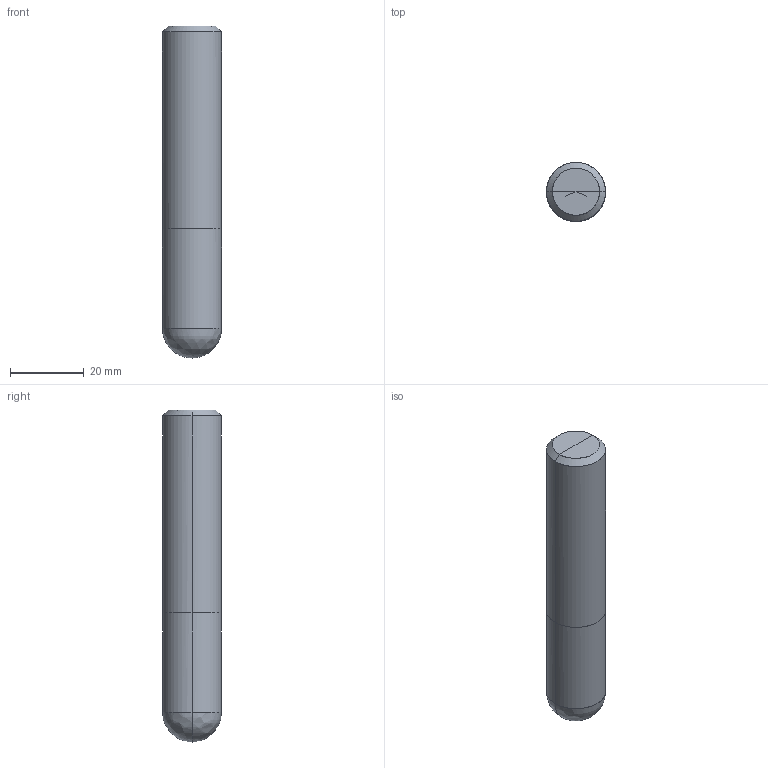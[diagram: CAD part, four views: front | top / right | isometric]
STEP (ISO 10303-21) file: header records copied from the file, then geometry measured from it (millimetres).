
FILE_DESCRIPTION(/* description */ (''),/* implementation_level */ '2;1');
FILE_NAME(/*name*/ '2172-16',/*time_stamp*/'2021-4-23T10:49:14',/*author*/ ('ISBE GmbH'),/*organization*/ ('ISBE GmbH'),/*preprocessor_version*/ 'STEP IO v1.0',/*originating_system*/ '',/*authorisation*/ '');
FILE_SCHEMA (('AUTOMOTIVE_DESIGN'));
Length unit declared in the file: millimetre
Products named in the file (1): Document
Bounding box: 16 x 15.97 x 90 mm (x, y, z)
Surface area: 5083.8 mm2 (no closed solid volume)
Topology: 0 solids, 14 shells, 14 faces, 58 edges, 52 vertices
Faces by surface type: bspline 14
Entity records: 957 total; most frequent: CARTESIAN_POINT 692, VERTEX_POINT 48, EDGE_CURVE 48, ORIENTED_EDGE 48, DIRECTION 16, EDGE_LOOP 14, FACE_OUTER_BOUND 14, ADVANCED_FACE 14
